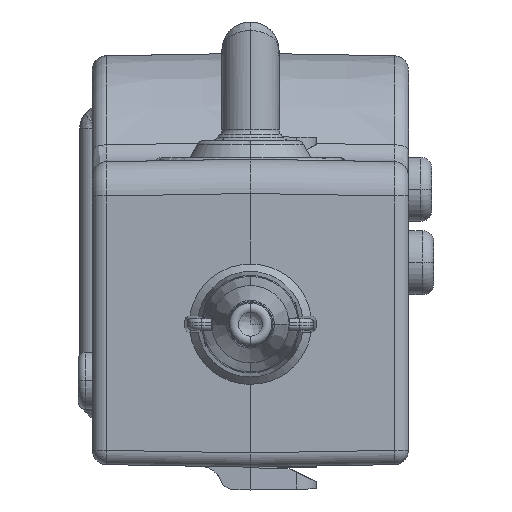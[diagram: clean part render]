
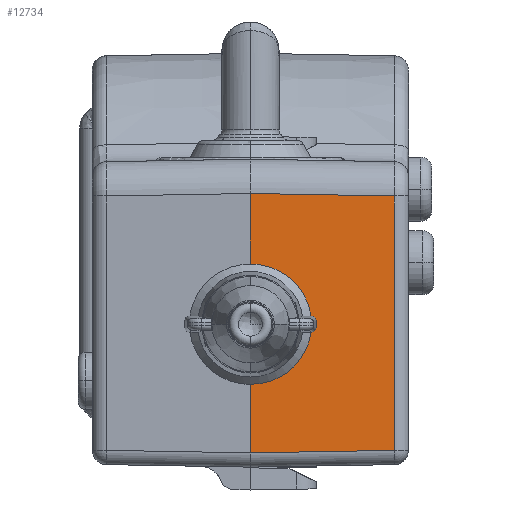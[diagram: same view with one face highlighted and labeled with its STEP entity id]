
A CAD part, left-side view. The second image highlights one B-rep face of the part: STEP entity #12734.
In plain terms, the highlighted planar face has unit normal (-1, -0.018, 0).
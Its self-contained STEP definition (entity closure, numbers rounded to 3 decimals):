
#1121=CARTESIAN_POINT('',(-63.883,-4.594,
17.763));
#1122=CARTESIAN_POINT('',(-63.883,-4.594,
17.863));
#1123=CARTESIAN_POINT('',(-63.885,-4.519,
17.987));
#1124=CARTESIAN_POINT('',(-63.887,-4.394,
18.063));
#1125=CARTESIAN_POINT('',(-63.889,-4.294,
18.063));
#1127=DIRECTION('',(-0.017,1.,0.));
#1128=VECTOR('',#1127,0.061);
#1129=CARTESIAN_POINT('',(-63.889,-4.294,
18.063));
#1130=LINE('',#1129,#1128);
#1131=CARTESIAN_POINT('',(-63.89,-4.234,
18.063));
#1132=CARTESIAN_POINT('',(-63.891,-4.187,
18.407));
#1133=CARTESIAN_POINT('',(-63.894,-4.015,
19.06));
#1134=CARTESIAN_POINT('',(-63.902,-3.524,
19.963));
#1135=CARTESIAN_POINT('',(-63.914,-2.834,
20.716));
#1136=CARTESIAN_POINT('',(-63.929,-1.985,
21.284));
#1137=CARTESIAN_POINT('',(-63.946,-1.018,
21.632));
#1138=CARTESIAN_POINT('',(-63.958,-0.347,
21.703));
#1139=CARTESIAN_POINT('',(-63.964,0.,
21.697));
#1141=DIRECTION('',(0.017,-1.,-0.017));
#1142=VECTOR('',#1141,10.081);
#1143=CARTESIAN_POINT('',(-63.964,0.,
26.65));
#1144=LINE('',#1143,#1142);
#1145=DIRECTION('',(0.,0.,-1.));
#1146=VECTOR('',#1145,17.799);
#1147=CARTESIAN_POINT('',(-63.788,-10.077,
26.474));
#1148=LINE('',#1147,#1146);
#1149=DIRECTION('',(-0.017,1.,-0.017));
#1150=VECTOR('',#1149,10.081);
#1151=CARTESIAN_POINT('',(-63.788,-10.077,
8.676));
#1152=LINE('',#1151,#1150);
#1153=CARTESIAN_POINT('',(-63.964,0.,
13.303));
#1154=CARTESIAN_POINT('',(-63.958,-0.347,
13.297));
#1155=CARTESIAN_POINT('',(-63.946,-1.018,
13.368));
#1156=CARTESIAN_POINT('',(-63.929,-1.985,
13.716));
#1157=CARTESIAN_POINT('',(-63.914,-2.834,
14.284));
#1158=CARTESIAN_POINT('',(-63.902,-3.524,
15.037));
#1159=CARTESIAN_POINT('',(-63.894,-4.015,
15.94));
#1160=CARTESIAN_POINT('',(-63.891,-4.187,
16.593));
#1161=CARTESIAN_POINT('',(-63.89,-4.234,
16.937));
#1163=CARTESIAN_POINT('',(-63.889,-4.294,
16.937));
#1164=CARTESIAN_POINT('',(-63.887,-4.394,
16.937));
#1165=CARTESIAN_POINT('',(-63.885,-4.519,
17.013));
#1166=CARTESIAN_POINT('',(-63.883,-4.594,
17.137));
#1167=CARTESIAN_POINT('',(-63.883,-4.594,
17.237));
#1169=DIRECTION('',(0.,0.,-1.));
#1170=VECTOR('',#1169,0.526);
#1171=CARTESIAN_POINT('',(-63.883,-4.594,
17.763));
#1172=LINE('',#1171,#1170);
#1181=DIRECTION('',(-0.017,1.,0.));
#1182=VECTOR('',#1181,0.061);
#1183=CARTESIAN_POINT('',(-63.889,-4.294,
16.937));
#1184=LINE('',#1183,#1182);
#1273=CARTESIAN_POINT('',(-63.964,0.,
13.303));
#1275=DIRECTION('',(0.,0.,-1.));
#1276=VECTOR('',#1275,4.803);
#1277=CARTESIAN_POINT('',(-63.964,0.,
13.303));
#1278=LINE('',#1277,#1276);
#1287=DIRECTION('',(0.,0.,-1.));
#1288=VECTOR('',#1287,4.953);
#1289=CARTESIAN_POINT('',(-63.964,0.,
26.65));
#1290=LINE('',#1289,#1288);
#1874=CARTESIAN_POINT('',(-63.964,0.,
26.65));
#1892=CARTESIAN_POINT('',(-63.788,-10.077,
26.474));
#9823=VERTEX_POINT('',#1874);
#9826=VERTEX_POINT('',#1892);
#9847=VERTEX_POINT('',#1273);
#9848=CARTESIAN_POINT('',(-63.964,0.,
8.5));
#9849=VERTEX_POINT('',#9848);
#9850=CARTESIAN_POINT('',(-63.964,0.,
21.697));
#9851=VERTEX_POINT('',#9850);
#9861=CARTESIAN_POINT('',(-63.889,-4.294,
18.063));
#9862=CARTESIAN_POINT('',(-63.89,-4.234,
18.063));
#9863=VERTEX_POINT('',#9861);
#9864=VERTEX_POINT('',#9862);
#9880=CARTESIAN_POINT('',(-63.883,-4.594,
17.763));
#9881=CARTESIAN_POINT('',(-63.883,-4.594,
17.237));
#9882=VERTEX_POINT('',#9880);
#9883=VERTEX_POINT('',#9881);
#9884=CARTESIAN_POINT('',(-63.788,-10.077,
8.676));
#9885=VERTEX_POINT('',#9884);
#9886=VERTEX_POINT('',#1161);
#9887=CARTESIAN_POINT('',(-63.889,-4.294,
16.937));
#9888=VERTEX_POINT('',#9887);
#12704=CARTESIAN_POINT('',(-63.964,0.,
33.838));
#12705=DIRECTION('',(-1.,-0.017,0.));
#12706=DIRECTION('',(0.,0.,1.));
#12707=AXIS2_PLACEMENT_3D('',#12704,#12705,#12706);
#12708=PLANE('',#12707);
#12710=ORIENTED_EDGE('',*,*,#12709,.F.);
#12712=ORIENTED_EDGE('',*,*,#12711,.T.);
#12714=ORIENTED_EDGE('',*,*,#12713,.T.);
#12716=ORIENTED_EDGE('',*,*,#12715,.T.);
#12718=ORIENTED_EDGE('',*,*,#12717,.F.);
#12720=ORIENTED_EDGE('',*,*,#12719,.T.);
#12722=ORIENTED_EDGE('',*,*,#12721,.T.);
#12723=ORIENTED_EDGE('',*,*,#12695,.T.);
#12725=ORIENTED_EDGE('',*,*,#12724,.F.);
#12727=ORIENTED_EDGE('',*,*,#12726,.T.);
#12729=ORIENTED_EDGE('',*,*,#12728,.F.);
#12731=ORIENTED_EDGE('',*,*,#12730,.T.);
#12732=EDGE_LOOP('',(#12710,#12712,#12714,#12716,#12718,#12720,#12722,#12723,
#12725,#12727,#12729,#12731));
#12733=FACE_OUTER_BOUND('',#12732,.F.);
#12734=ADVANCED_FACE('',(#12733),#12708,.T.);
#1126=B_SPLINE_CURVE_WITH_KNOTS('',3,(#1121,#1122,#1123,#1124,#1125),
.UNSPECIFIED.,.F.,.F.,(4,1,4),(0.,0.5,1.),.UNSPECIFIED.);
#1140=B_SPLINE_CURVE_WITH_KNOTS('',3,(#1131,#1132,#1133,#1134,#1135,#1136,#1137,
#1138,#1139),.UNSPECIFIED.,.F.,.F.,(4,1,1,1,1,1,4),(0.,0.167,
0.333,0.5,0.667,0.833,1.),
.UNSPECIFIED.);
#1162=B_SPLINE_CURVE_WITH_KNOTS('',3,(#1153,#1154,#1155,#1156,#1157,#1158,#1159,
#1160,#1161),.UNSPECIFIED.,.F.,.F.,(4,1,1,1,1,1,4),(0.,0.167,
0.333,0.5,0.667,0.833,1.),
.UNSPECIFIED.);
#1168=B_SPLINE_CURVE_WITH_KNOTS('',3,(#1163,#1164,#1165,#1166,#1167),
.UNSPECIFIED.,.F.,.F.,(4,1,4),(0.,0.5,1.),.UNSPECIFIED.);
#12695=EDGE_CURVE('',#9885,#9849,#1152,.T.);
#12709=EDGE_CURVE('',#9882,#9883,#1172,.T.);
#12711=EDGE_CURVE('',#9882,#9863,#1126,.T.);
#12713=EDGE_CURVE('',#9863,#9864,#1130,.T.);
#12715=EDGE_CURVE('',#9864,#9851,#1140,.T.);
#12717=EDGE_CURVE('',#9823,#9851,#1290,.T.);
#12719=EDGE_CURVE('',#9823,#9826,#1144,.T.);
#12721=EDGE_CURVE('',#9826,#9885,#1148,.T.);
#12724=EDGE_CURVE('',#9847,#9849,#1278,.T.);
#12726=EDGE_CURVE('',#9847,#9886,#1162,.T.);
#12728=EDGE_CURVE('',#9888,#9886,#1184,.T.);
#12730=EDGE_CURVE('',#9888,#9883,#1168,.T.);
